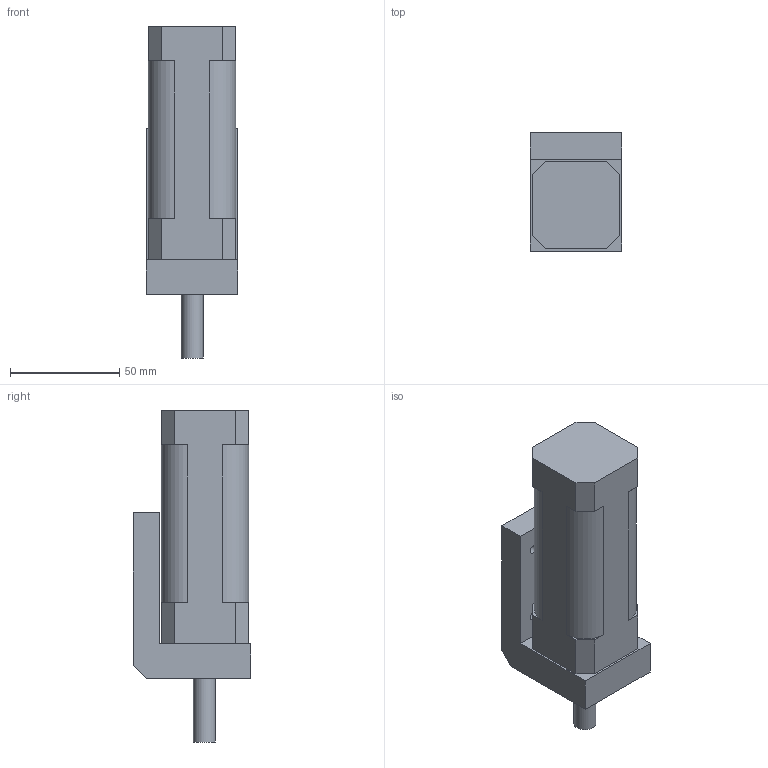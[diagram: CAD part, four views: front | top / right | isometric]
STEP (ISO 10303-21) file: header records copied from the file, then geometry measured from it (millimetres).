
FILE_DESCRIPTION(/* description */ ('STEP AP242 Edition 2','CAx-IF Rec.Pracs.---Representation and Presentation of Product Manufacturing Information (PMI)---4.0---2014-10-13','CAx-IF Rec.Pracs.---3D Tessellated Geometry---0.4---2014-09-14','2;1','CAx-IF Rec.Pracs.---User Defined Attributes---1.5---2016-08-15'),/* implementation_level */ '2;1');
FILE_NAME(/* name */ 'Spindle Assembly',/* time_stamp */ '2025-11-29T19:53:32Z',/* author */ (''),/* organization */ (''),/* preprocessor_version */ 'ST-DEVELOPER v20',/* originating_system */ 'ONSHAPE BY PTC INC, 1.207',/* authorisation */ ' ');
FILE_SCHEMA (('AP242_MANAGED_MODEL_BASED_3D_ENGINEERING_MIM_LF { 1 0 10303 442 3 1 4 }'));
Length unit declared in the file: metre
Products named in the file (3): Spindle Assembly; Part 1
Assembly tree (2 placements, depth 2):
  Spindle Assembly
    Part 1
    Part 1
Bounding box: 42 x 54 x 152 mm (x, y, z)
Volume: 196683.9 mm3; surface area: 44341 mm2
Topology: 2 solids, 7 shells, 71 faces, 153 edges, 102 vertices
Faces by surface type: plane 47, cylinder 24
Full cylindrical faces by diameter (mm): 4 x16, 10 x1, 20 x3
Entity records: 1929 total; most frequent: DIRECTION 329, CARTESIAN_POINT 309, ORIENTED_EDGE 266, EDGE_CURVE 133, AXIS2_PLACEMENT_3D 122, EDGE_LOOP 115, FACE_BOUND 115, VERTEX_POINT 102
